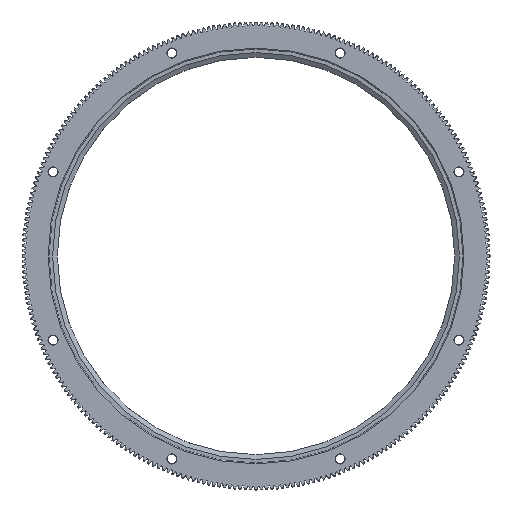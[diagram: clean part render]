
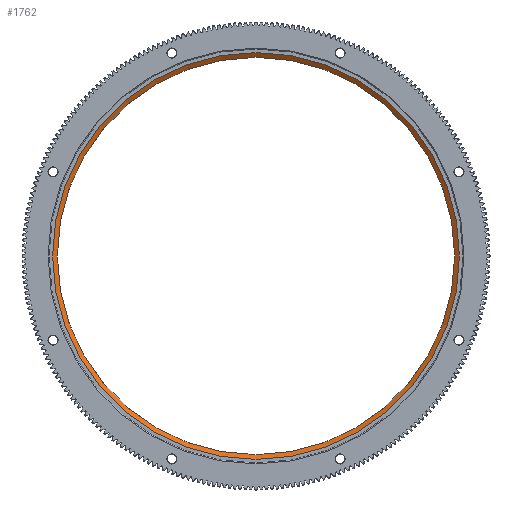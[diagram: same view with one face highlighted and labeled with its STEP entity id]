
A CAD part, front view. The second image highlights one B-rep face of the part: STEP entity #1762.
In plain terms, the highlighted conical face has half-angle 55 degrees and reference radius 118.215 mm.
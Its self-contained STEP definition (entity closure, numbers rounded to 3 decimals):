
#1762 = ADVANCED_FACE( '', ( #5191, #5192 ), #5193, .F. );
#5191 = FACE_OUTER_BOUND( '', #8645, .T. );
#5192 = FACE_BOUND( '', #8646, .T. );
#5193 = CONICAL_SURFACE( '', #8647, 118.215, 0.96 );
#8645 = EDGE_LOOP( '', ( #22360 ) );
#8646 = EDGE_LOOP( '', ( #22361 ) );
#8647 = AXIS2_PLACEMENT_3D( '', #22362, #22363, #22364 );
#22360 = ORIENTED_EDGE( '', *, *, #28815, .T. );
#22361 = ORIENTED_EDGE( '', *, *, #28814, .F. );
#22362 = CARTESIAN_POINT( '', ( 0., 9.59, 0. ) );
#22363 = DIRECTION( '', ( 0., -1., 0. ) );
#22364 = DIRECTION( '', ( 0., 0., -1. ) );
#28814 = EDGE_CURVE( '', #37183, #37183, #37184, .T. );
#28815 = EDGE_CURVE( '', #37185, #37185, #37186, .T. );
#37183 = VERTEX_POINT( '', #50799 );
#37184 = CIRCLE( '', #50800, 118.215 );
#37185 = VERTEX_POINT( '', #50801 );
#37186 = CIRCLE( '', #50802, 120.843 );
#50799 = CARTESIAN_POINT( '', ( 0., 9.59, -118.215 ) );
#50800 = AXIS2_PLACEMENT_3D( '', #57019, #57020, #57021 );
#50801 = CARTESIAN_POINT( '', ( 0., 7.75, -120.843 ) );
#50802 = AXIS2_PLACEMENT_3D( '', #57022, #57023, #57024 );
#57019 = CARTESIAN_POINT( '', ( 0., 9.59, 0. ) );
#57020 = DIRECTION( '', ( 0., -1., 0. ) );
#57021 = DIRECTION( '', ( 0., 0., -1. ) );
#57022 = CARTESIAN_POINT( '', ( 0., 7.75, 0. ) );
#57023 = DIRECTION( '', ( 0., -1., 0. ) );
#57024 = DIRECTION( '', ( 0., 0., -1. ) );
